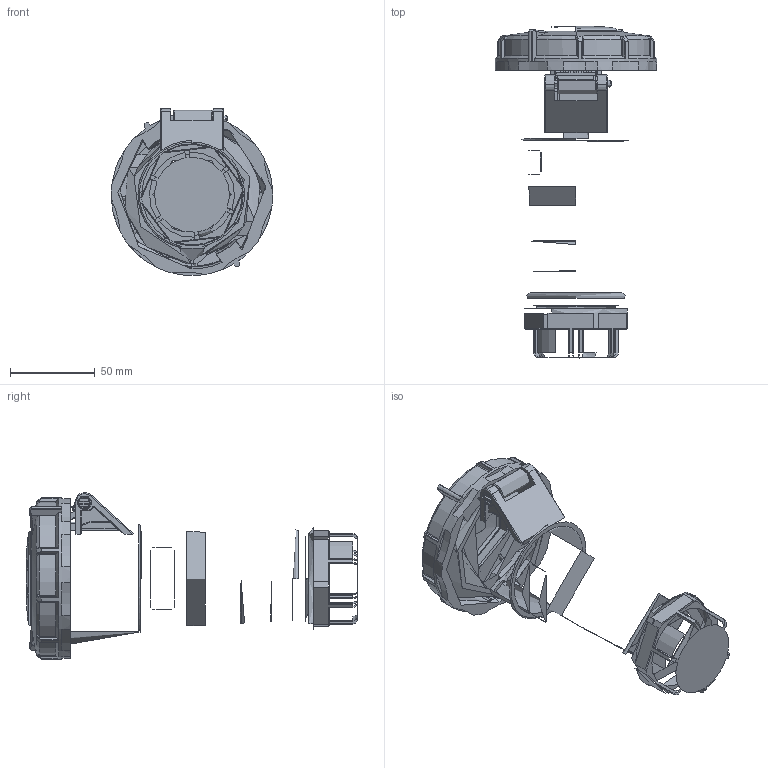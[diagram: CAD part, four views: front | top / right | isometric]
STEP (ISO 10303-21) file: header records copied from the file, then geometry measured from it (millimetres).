
FILE_DESCRIPTION (( 'STEP AP203' ), '1' );
FILE_NAME ('DIS3133246 (CS 4p 32ﾀ 400ﾂ IP67).stp.STEP', '2024-08-13T11:46:41', ( '' ), ( '' ), 'SwSTEP 2.0', 'SolidWorks 2022', '' );
FILE_SCHEMA (( 'CONFIG_CONTROL_DESIGN' ));
Products named in the file (1): DIS3133246 (CS 4p 32А 400В IP67).stp
Bounding box: 95.48 x 196.2 x 98.7 mm (x, y, z)
Volume: 450467.2 mm3; surface area: 84049 mm2
Topology: 3 solids, 3 shells, 1036 faces, 2772 edges, 1723 vertices
Faces by surface type: cylinder 382, plane 229, torus 163, bspline 155, sphere 54, cone 53
Full cylindrical faces by diameter (mm): 0.4 x21, 0.6 x29, 1 x22, 2 x4, 3 x12, 4 x2, 4.1 x1, 4.691 x1, 6 x6, 7 x2, 10 x1, 11.2 x1, 46.3 x1, 50.4 x6, 54.5 x1, 55.1 x1, 55.7 x2, 60.5 x1, 72 x9, 73.6 x1, 75.988 x6, 80 x2, 84 x1
Entity records: 49074 total; most frequent: CARTESIAN_POINT 25648, ORIENTED_EDGE 5452, DIRECTION 4142, EDGE_CURVE 2726, VERTEX_POINT 1710, AXIS2_PLACEMENT_3D 1695, B_SPLINE_CURVE_WITH_KNOTS 1112, EDGE_LOOP 1060
